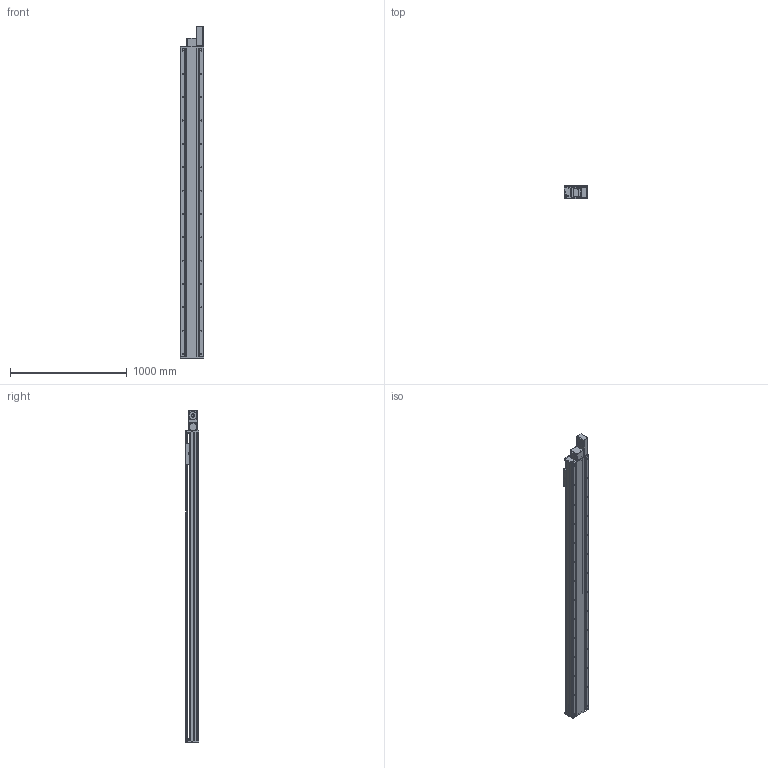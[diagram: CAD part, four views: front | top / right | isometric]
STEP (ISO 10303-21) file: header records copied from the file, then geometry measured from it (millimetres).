
FILE_DESCRIPTION(/* description */ (''),/* implementation_level */ '2;1');
FILE_NAME(/* name */ 'TKB200-FL-2400_asm1.stp',/* time_stamp */ '2016-05-18T10:50:38+08:00',/* author */ (''),/* organization */ (''),/* preprocessor_version */ 'ST-DEVELOPER v15',/* originating_system */ 'SIEMENS PLM Software NX 8.5',/* authorisation */ '');
FILE_SCHEMA (('AUTOMOTIVE_DESIGN { 1 0 10303 214 3 1 1 1 }'));
Length unit declared in the file: millimetre
Products named in the file (3): 200-2; 200-1; TKB200-FL-2400_asm1
Assembly tree (2 placements, depth 2):
  TKB200-FL-2400_asm1
    200-1
    200-2
Bounding box: 200 x 115 x 2845 mm (x, y, z)
Volume: 16011070.7 mm3; surface area: 5170995.6 mm2
Topology: 2 solids, 3 shells, 1118 faces, 3267 edges, 2108 vertices
Faces by surface type: cylinder 547, plane 485, cone 70, bspline 16
Full cylindrical faces by diameter (mm): 2.5 x2, 3.3 x16, 4.3 x4, 4.5 x8, 5 x2, 6.6 x34, 6.8 x8, 8 x6, 9 x36, 10 x4, 11 x22, 12 x16, 14 x28, 75 x1
Entity records: 40182 total; most frequent: CARTESIAN_POINT 11736, ORIENTED_EDGE 5788, DIRECTION 5736, EDGE_CURVE 2894, AXIS2_PLACEMENT_3D 2095, VERTEX_POINT 1994, EDGE_LOOP 1570, LINE 1546
